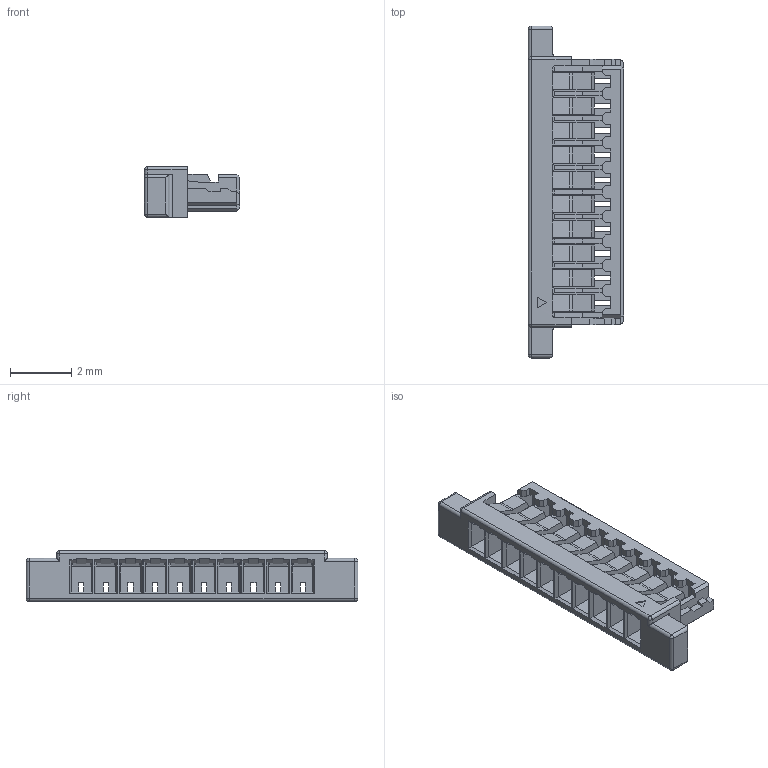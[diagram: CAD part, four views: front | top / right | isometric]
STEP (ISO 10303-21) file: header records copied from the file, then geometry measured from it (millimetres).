
FILE_DESCRIPTION((''),'2;1');
FILE_NAME('ASM0004_ASM','2020-02-25T',('k41758'),(''),'PRO/ENGINEER BY PARAMETRIC TECHNOLOGY CORPORATION, 2009360','PRO/ENGINEER BY PARAMETRIC TECHNOLOGY CORPORATION, 2009360','');
FILE_SCHEMA(('CONFIG_CONTROL_DESIGN'));
Length unit declared in the file: millimetre
Products named in the file (1): ASM0004_ASM
Bounding box: 3.1 x 10.8 x 1.65 mm (x, y, z)
Volume: 19.2 mm3; surface area: 187.6 mm2
Topology: 1 solids, 1 shells, 532 faces, 1475 edges, 910 vertices
Faces by surface type: plane 476, cylinder 50, sphere 6
Entity records: 16630 total; most frequent: CARTESIAN_POINT 3102, ORIENTED_EDGE 2938, DIRECTION 2573, EDGE_CURVE 1469, VECTOR 1373, LINE 1373, VERTEX_POINT 910, AXIS2_PLACEMENT_3D 600
